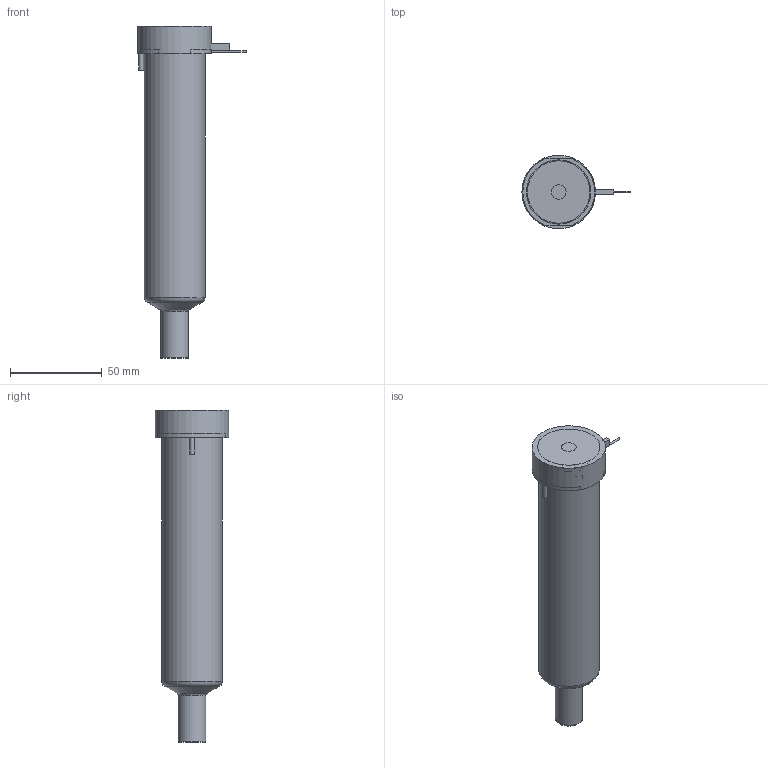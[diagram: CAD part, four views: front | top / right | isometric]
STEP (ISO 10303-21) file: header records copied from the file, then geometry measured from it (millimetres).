
FILE_DESCRIPTION(/* description */ (''),/* implementation_level */ '2;1');
FILE_NAME(/* name */ 'BXYCN19145P7U_200C_a',/* time_stamp */ '2016-02-22T15:44:07+13:00',/* author */ (''),/* organization */ (''),/* preprocessor_version */ 'ST-DEVELOPER v9',/* originating_system */ 'UGS - NX 4.0',/* authorisation */ '');
FILE_SCHEMA (('CONFIG_CONTROL_DESIGN'));
Length unit declared in the file: millimetre
Products named in the file (1): MattBE97x0yn
Bounding box: 58.85 x 40 x 180.66 mm (x, y, z)
Volume: 247608.9 mm3; surface area: 38826.2 mm2
Topology: 2 solids, 2 shells, 66 faces, 148 edges, 96 vertices
Faces by surface type: plane 31, cylinder 21, torus 7, cone 5, bspline 1, sphere 1
Full cylindrical faces by diameter (mm): 1 x2, 1.8 x1, 2.5 x1, 7 x1, 8 x1, 14.61 x1, 14.995 x2, 18.3 x1, 28.6 x1, 33 x1, 40 x1
Entity records: 1929 total; most frequent: CARTESIAN_POINT 483, DIRECTION 297, ORIENTED_EDGE 232, AXIS2_PLACEMENT_3D 127, EDGE_CURVE 116, EDGE_LOOP 102, VERTEX_POINT 88, ADVANCED_FACE 66
